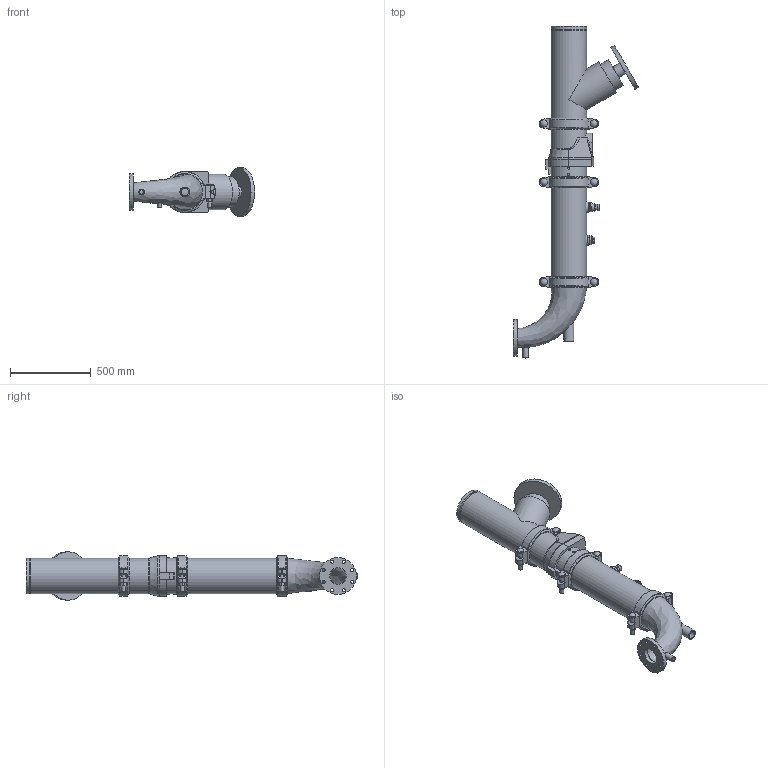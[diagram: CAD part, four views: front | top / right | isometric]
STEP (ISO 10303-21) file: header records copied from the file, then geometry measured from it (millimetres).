
FILE_DESCRIPTION(/* description */ ('VIC DVI PUMP DROP HORZ S/383 (OGSxFLG) (S/924-0.75)','CAx-IF Rec.Pracs.---Representation and Presentation of Product Manufacturing Information (PMI)---4.0---2014-10-13'),/* implementation_level */ '2;1');
FILE_NAME(/* name */ 'C:\Users\kkamble\AppData\Roaming\Autodesk\ApplicationPlugins\Victaulic.Temp\A821\CL 150_Series 383 (OGSxFLG)_924 (0.75)_08.0x04.0 (200x100).stp',/* time_stamp */ '2022-03-16T18:46:34+05:00',/* author */ ('kkamble'),/* organization */ ('Victaulic'),/* preprocessor_version */ 'ST-DEVELOPER v17.2',/* originating_system */ 'Autodesk Inventor 2019',/* authorisation */ '');
FILE_SCHEMA (('AP242_MANAGED_MODEL_BASED_3D_ENGINEERING_MIM_LF { 1 0 10303 442 1 1 4 }'));
Length unit declared in the file: inch
Products named in the file (8): 383_924 (0.75)-08.0x04.0; Pipe-08.0; 789-08.0; 177N-08.0; 779-08.0; 924-04.0x0.75; 923-04.0x0.75; R100F-08.0x04.0
Assembly tree (9 placements, depth 2):
  383_924 (0.75)-08.0x04.0
    177N-08.0  x3
    Pipe-08.0
    789-08.0
    779-08.0
    924-04.0x0.75
    923-04.0x0.75
    R100F-08.0x04.0
Bounding box: 774.7 x 2054.35 x 299.97 mm (x, y, z)
Volume: 28443008.2 mm3; surface area: 3862834.4 mm2
Topology: 9 solids, 9 shells, 517 faces, 1357 edges, 911 vertices
Faces by surface type: plane 296, cylinder 174, torus 18, cone 17, sphere 6, bspline 6
Full cylindrical faces by diameter (mm): 13.716 x4, 19.05 x8, 23.774 x6, 26.67 x3, 34.29 x1, 38.608 x1, 42.85 x6, 45.974 x4, 48.26 x1, 55.626 x2, 60.96 x1, 76.2 x1, 102.26 x1, 183.515 x1, 202.717 x4, 206.375 x3, 214.401 x7, 219.075 x18, 228.6 x1, 299.974 x1
Entity records: 12558 total; most frequent: CARTESIAN_POINT 3541, DIRECTION 1841, ORIENTED_EDGE 1694, EDGE_CURVE 847, AXIS2_PLACEMENT_3D 709, VERTEX_POINT 575, LINE 423, VECTOR 423
